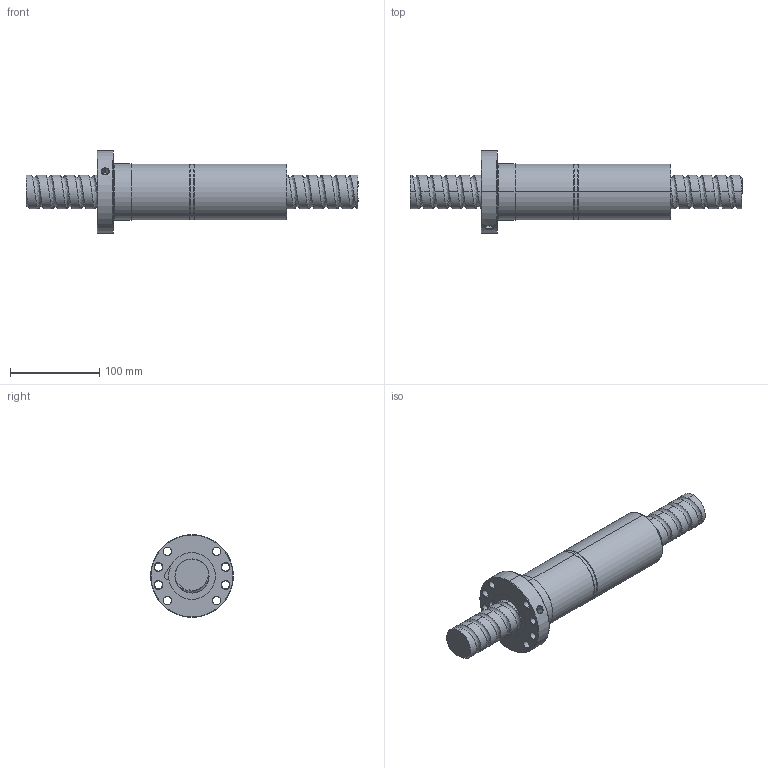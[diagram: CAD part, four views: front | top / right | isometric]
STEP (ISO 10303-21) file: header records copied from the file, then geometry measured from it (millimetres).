
FILE_DESCRIPTION (( 'STEP AP214' ), '1' );
FILE_NAME ('FDDC03816T5-F-A.STEP', '2010-07-06T05:34:09', ( 'XPAUTO' ), ( 'XPAUTO' ), 'SwSTEP 2.0', 'SolidWorks 2007', '' );
FILE_SCHEMA (( 'AUTOMOTIVE_DESIGN' ));
Length unit declared in the file: millimetre
Products named in the file (3): FDDC03816T5-F-A; FDDC03816T5-F-A.sldasm-Part-1_預設; FDDC03816T5-F-A.sldasm-Part-2_預設
Assembly tree (2 placements, depth 2):
  FDDC03816T5-F-A
    FDDC03816T5-F-A.sldasm-Part-1_預設
    FDDC03816T5-F-A.sldasm-Part-2_預設
Bounding box: 373 x 93 x 93 mm (x, y, z)
Volume: 864551.5 mm3; surface area: 136062.7 mm2
Topology: 2 solids, 2 shells, 158 faces, 396 edges, 247 vertices
Faces by surface type: cylinder 94, cone 32, plane 17, torus 10, bspline 5
Entity records: 31481 total; most frequent: CARTESIAN_POINT 27714, ORIENTED_EDGE 792, DIRECTION 740, EDGE_CURVE 396, AXIS2_PLACEMENT_3D 303, VERTEX_POINT 247, EDGE_LOOP 183, FACE_OUTER_BOUND 158
